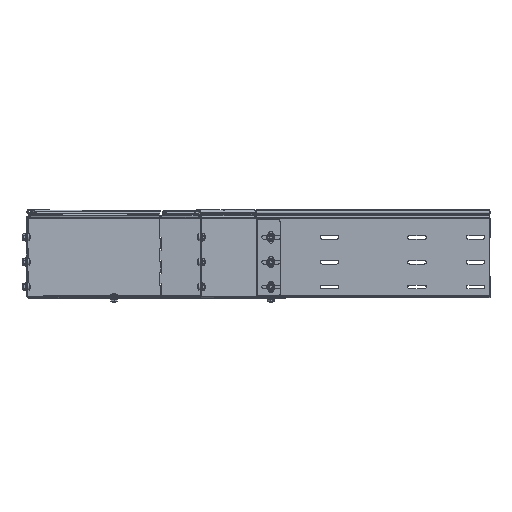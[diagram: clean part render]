
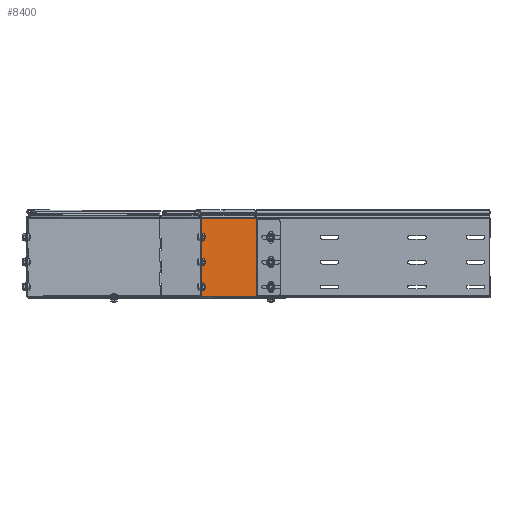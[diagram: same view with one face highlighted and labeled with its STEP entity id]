
A CAD part, top view. The second image highlights one B-rep face of the part: STEP entity #8400.
In plain terms, the highlighted planar face has unit normal (0.707, 0, 0.707) as drawn and (0.707, 0, -0.707) by its records, which use the part's own axes.
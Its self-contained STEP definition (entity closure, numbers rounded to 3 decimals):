
#343 = VERTEX_POINT ( 'NONE', #31205 ) ;
#695 = VERTEX_POINT ( 'NONE', #15746 ) ;
#920 = VECTOR ( 'NONE', #11796, 1000. ) ;
#1173 = LINE ( 'NONE', #18635, #32046 ) ;
#1340 = LINE ( 'NONE', #14066, #9297 ) ;
#1632 = CARTESIAN_POINT ( 'NONE',  ( 243.813, 1.5, -148.354 ) ) ;
#2699 = CARTESIAN_POINT ( 'NONE',  ( 148.354, 1.5, -243.813 ) ) ;
#3130 = ORIENTED_EDGE ( 'NONE', *, *, #18838, .F. ) ;
#4589 = LINE ( 'NONE', #32778, #10688 ) ;
#4760 = EDGE_CURVE ( 'NONE', #12727, #343, #4589, .T. ) ;
#5715 = DIRECTION ( 'NONE',  ( 0.707, 0., -0.707 ) ) ;
#6010 = DIRECTION ( 'NONE',  ( 0.707, 0., 0.707 ) ) ;
#7267 = ORIENTED_EDGE ( 'NONE', *, *, #32896, .T. ) ;
#7740 = VECTOR ( 'NONE', #11277, 1000. ) ;
#8400 = ADVANCED_FACE ( 'NONE', ( #29487 ), #20617, .T. ) ;
#8801 = CARTESIAN_POINT ( 'NONE',  ( 148.354, 1.5, -243.813 ) ) ;
#9297 = VECTOR ( 'NONE', #20065, 1000. ) ;
#10688 = VECTOR ( 'NONE', #6010, 1000. ) ;
#11277 = DIRECTION ( 'NONE',  ( 0., 1., 0. ) ) ;
#11796 = DIRECTION ( 'NONE',  ( 0., 1., 0. ) ) ;
#11928 = EDGE_CURVE ( 'NONE', #695, #35969, #1173, .T. ) ;
#12202 = CARTESIAN_POINT ( 'NONE',  ( 243.813, 133.949, -148.354 ) ) ;
#12340 = AXIS2_PLACEMENT_3D ( 'NONE', #2699, #5715, #26614 ) ;
#12727 = VERTEX_POINT ( 'NONE', #20145 ) ;
#14066 = CARTESIAN_POINT ( 'NONE',  ( 243.813, 1.5, -148.354 ) ) ;
#15746 = CARTESIAN_POINT ( 'NONE',  ( 148.354, 1.5, -243.813 ) ) ;
#15870 = DIRECTION ( 'NONE',  ( 0.707, 0., 0.707 ) ) ;
#15955 = EDGE_CURVE ( 'NONE', #343, #25318, #1340, .T. ) ;
#16003 = CARTESIAN_POINT ( 'NONE',  ( 243.813, 1.5, -148.354 ) ) ;
#16477 = LINE ( 'NONE', #16003, #31460 ) ;
#16499 = EDGE_LOOP ( 'NONE', ( #20818, #37804, #3130, #18662, #7267, #19172 ) ) ;
#16840 = LINE ( 'NONE', #8801, #920 ) ;
#18635 = CARTESIAN_POINT ( 'NONE',  ( 148.354, 1.5, -243.813 ) ) ;
#18662 = ORIENTED_EDGE ( 'NONE', *, *, #11928, .F. ) ;
#18838 = EDGE_CURVE ( 'NONE', #35969, #25318, #16477, .T. ) ;
#19172 = ORIENTED_EDGE ( 'NONE', *, *, #36573, .T. ) ;
#20065 = DIRECTION ( 'NONE',  ( 0., -1., 0. ) ) ;
#20145 = CARTESIAN_POINT ( 'NONE',  ( 148.354, 135.696, -243.813 ) ) ;
#20617 = PLANE ( 'NONE',  #12340 ) ;
#20818 = ORIENTED_EDGE ( 'NONE', *, *, #4760, .T. ) ;
#22703 = LINE ( 'NONE', #29178, #7740 ) ;
#25318 = VERTEX_POINT ( 'NONE', #12202 ) ;
#26614 = DIRECTION ( 'NONE',  ( -0.707, 0., -0.707 ) ) ;
#29178 = CARTESIAN_POINT ( 'NONE',  ( 148.354, 1.5, -243.813 ) ) ;
#29487 = FACE_OUTER_BOUND ( 'NONE', #16499, .T. ) ;
#31205 = CARTESIAN_POINT ( 'NONE',  ( 243.813, 135.696, -148.354 ) ) ;
#31460 = VECTOR ( 'NONE', #33901, 1000. ) ;
#32046 = VECTOR ( 'NONE', #15870, 1000. ) ;
#32778 = CARTESIAN_POINT ( 'NONE',  ( 148.354, 135.696, -243.813 ) ) ;
#32896 = EDGE_CURVE ( 'NONE', #695, #34178, #22703, .T. ) ;
#33901 = DIRECTION ( 'NONE',  ( 0., 1., 0. ) ) ;
#34178 = VERTEX_POINT ( 'NONE', #38598 ) ;
#35969 = VERTEX_POINT ( 'NONE', #1632 ) ;
#36573 = EDGE_CURVE ( 'NONE', #34178, #12727, #16840, .T. ) ;
#37804 = ORIENTED_EDGE ( 'NONE', *, *, #15955, .T. ) ;
#38598 = CARTESIAN_POINT ( 'NONE',  ( 148.354, 133.949, -243.813 ) ) ;
